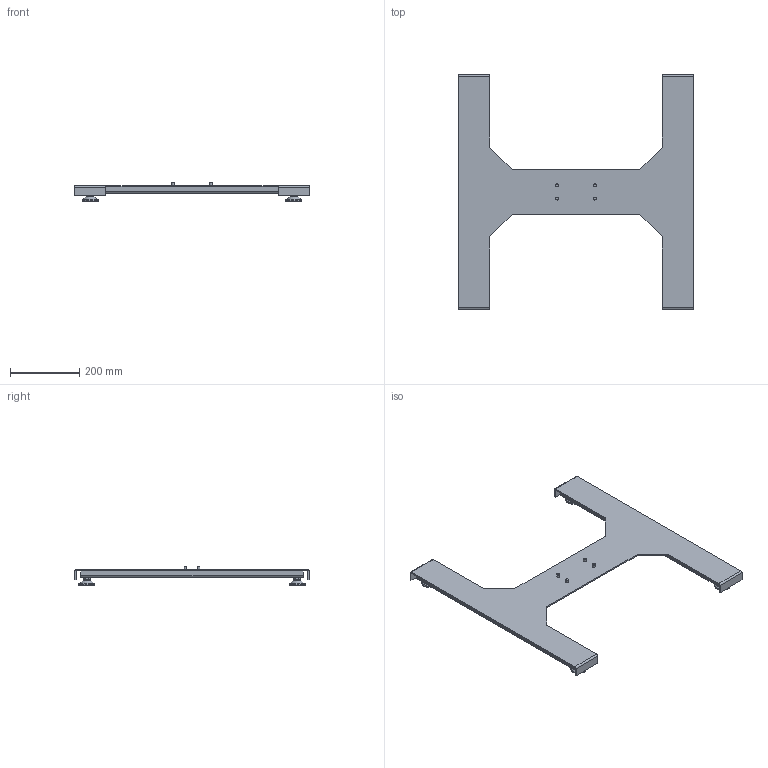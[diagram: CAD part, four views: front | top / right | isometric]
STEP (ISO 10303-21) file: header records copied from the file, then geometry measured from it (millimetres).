
FILE_DESCRIPTION(/* description */ ('Unknown'),/* implementation_level */ '2;1');
FILE_NAME(/* name */ '115.00176_00',/* time_stamp */ '2024-05-14T17:05:42+02:00',/* author */ ('Unknown'),/* organization */ ('Unknown'),/* preprocessor_version */ 'ST-DEVELOPER v18.104',/* originating_system */ 'Solid Edge',/* authorisation */ 'Unknown');
FILE_SCHEMA (('AUTOMOTIVE_DESIGN {1 0 10303 214 3 1 1}'));
Length unit declared in the file: millimetre
Products named in the file (9): 115.00176; 127.00453; 127.00453 Brennteil; 127.00453 Strebe aussen; 127.00453 Strebe mitte; 113.00006; 113.00006-ohne Mutter; Mutter M10; 142.00091
Assembly tree (15 placements, depth 3):
  115.00176
    127.00453
      127.00453 Brennteil
      127.00453 Strebe aussen  x2
      127.00453 Strebe mitte
    113.00006  x4
      113.00006-ohne Mutter
      Mutter M10
    142.00091  x4
Bounding box: 680 x 680 x 53 mm (x, y, z)
Volume: 1619746.8 mm3; surface area: 834679.3 mm2
Topology: 16 solids, 16 shells, 332 faces, 724 edges, 464 vertices
Faces by surface type: plane 168, cylinder 80, cone 72, torus 12
Full cylindrical faces by diameter (mm): 8 x4, 8.376 x8, 8.5 x4, 9.5 x4, 10 x4, 13 x4, 14 x4, 15 x4, 19 x4, 25 x4, 29 x4, 35 x4, 39 x4, 47 x4
Entity records: 4496 total; most frequent: CARTESIAN_POINT 703, DIRECTION 652, ORIENTED_EDGE 562, EDGE_CURVE 281, AXIS2_PLACEMENT_3D 246, VERTEX_POINT 201, EDGE_LOOP 196, FACE_BOUND 196
